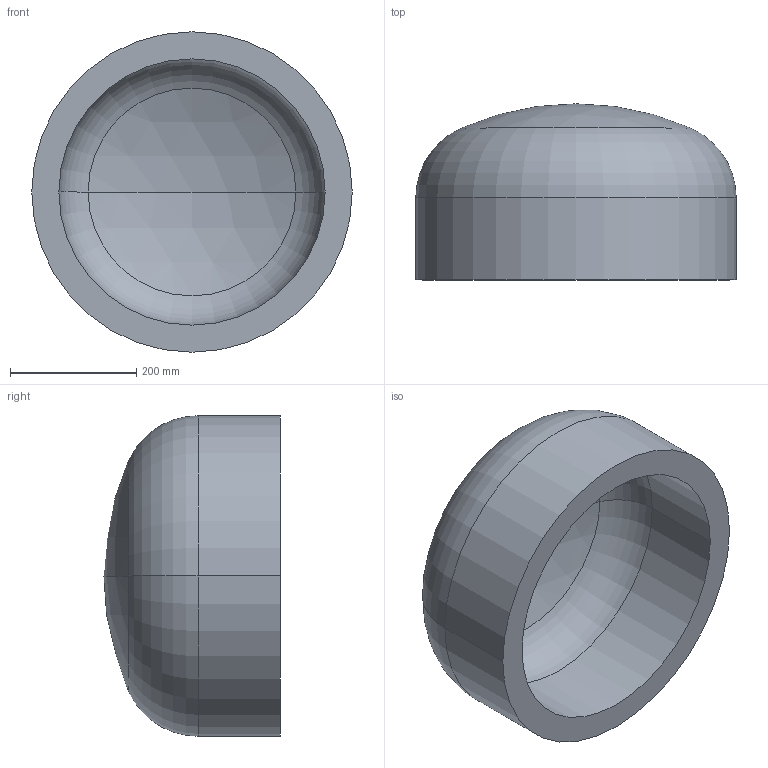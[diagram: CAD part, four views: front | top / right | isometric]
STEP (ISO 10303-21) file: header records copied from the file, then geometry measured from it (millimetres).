
FILE_DESCRIPTION (( 'STEP AP203' ), '1' );
FILE_NAME ('DIN 28013 Korbbogenform_-_Boden DIN 28013 - 508 x 130 - I - s=43.step', '2016-07-01T07:54:57', ( '' ), ( '' ), 'SwSTEP 2.0', 'SolidWorks 2013', '' );
FILE_SCHEMA (( 'CONFIG_CONTROL_DESIGN' ));
Length unit declared in the file: millimetre
Products named in the file (1): DIN 28013 Korbbogenform_-_Boden DIN 28013 - 508 x 130 - I - s=43
Bounding box: 508 x 279.18 x 508 mm (x, y, z)
Volume: 19017637.2 mm3; surface area: 951229.8 mm2
Topology: 1 solids, 1 shells, 13 faces, 24 edges, 14 vertices
Faces by surface type: torus 4, cylinder 4, sphere 4, plane 1
Entity records: 407 total; most frequent: DIRECTION 72, CARTESIAN_POINT 52, ORIENTED_EDGE 48, AXIS2_PLACEMENT_3D 34, EDGE_CURVE 24, CIRCLE 20, VERTEX_POINT 14, EDGE_LOOP 14
